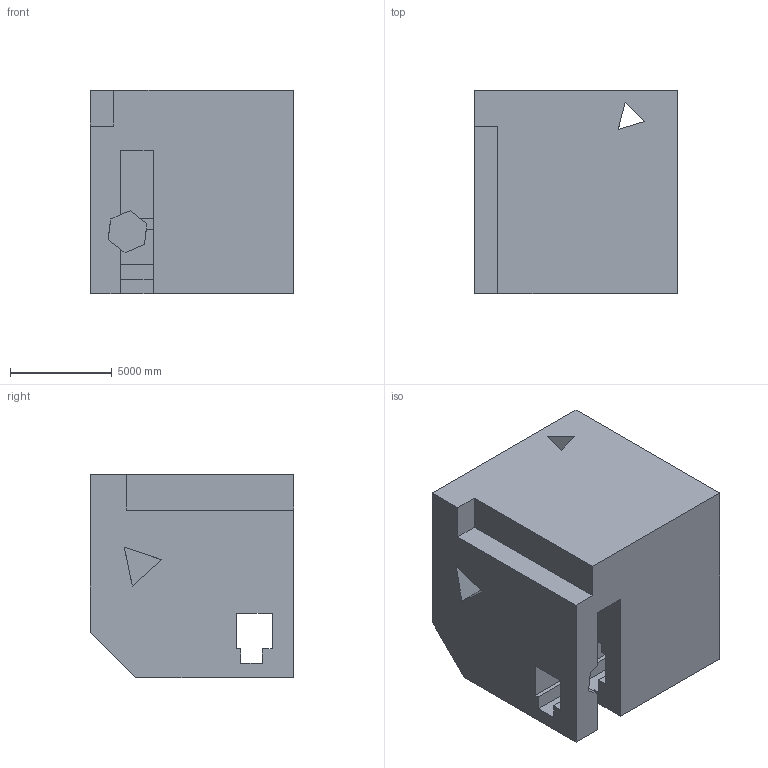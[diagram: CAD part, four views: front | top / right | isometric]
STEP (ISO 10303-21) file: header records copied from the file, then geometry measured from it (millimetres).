
FILE_DESCRIPTION (( 'STEP AP203' ), '1' );
FILE_NAME ('1907.STEP', '2022-08-23T09:20:03', ( 'user' ), ( '' ), 'SwSTEP 2.0', 'SolidWorks 2021', '' );
FILE_SCHEMA (( 'CONFIG_CONTROL_DESIGN' ));
Length unit declared in the file: centimetre
Products named in the file (1): 1907
Bounding box: 10000 x 10000 x 10000 mm (x, y, z)
Volume: 865096476743.9 mm3; surface area: 777416799.5 mm2
Topology: 1 solids, 1 shells, 55 faces, 171 edges, 114 vertices
Faces by surface type: plane 51, cylinder 4
Entity records: 1972 total; most frequent: CARTESIAN_POINT 365, ORIENTED_EDGE 342, DIRECTION 285, EDGE_CURVE 171, VECTOR 153, LINE 153, VERTEX_POINT 114, AXIS2_PLACEMENT_3D 66
